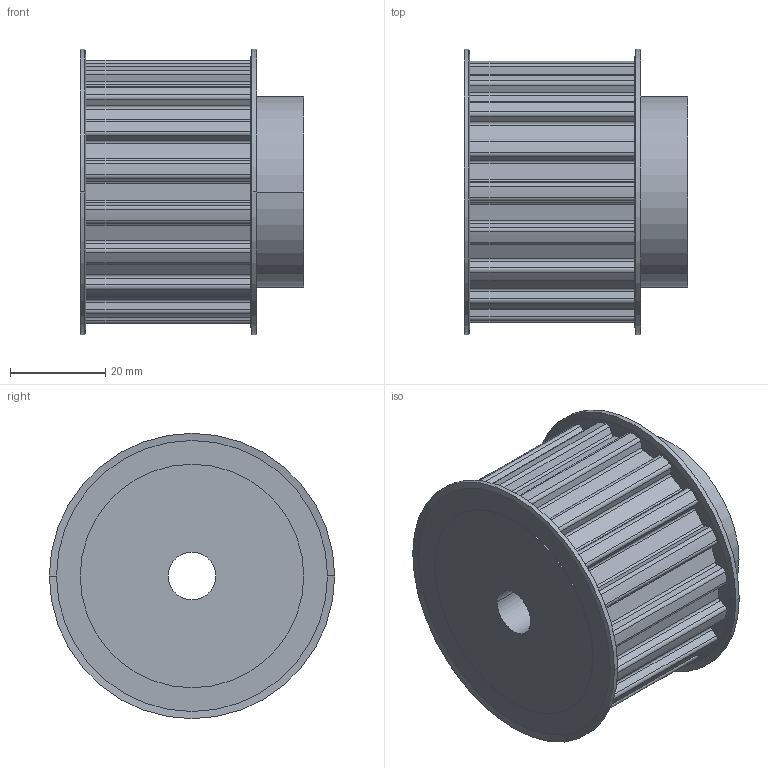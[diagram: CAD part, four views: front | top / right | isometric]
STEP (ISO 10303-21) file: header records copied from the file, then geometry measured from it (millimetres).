
FILE_DESCRIPTION( ( '' ), '1' );
FILE_NAME( 'C:/Users/Stangenbergd/Documents/CAD_Step/1/16441800.stp', '2021-10-19T08:57:07', ( '' ), ( '' ), ' ', ' ', ' ' );
FILE_SCHEMA( ( 'CONFIG_CONTROL_DESIGN' ) );
Length unit declared in the file: millimetre
Products named in the file (1): 1
Bounding box: 47.06 x 60 x 60 mm (x, y, z)
Volume: 90535 mm3; surface area: 17754.8 mm2
Topology: 1 solids, 1 shells, 171 faces, 484 edges, 320 vertices
Faces by surface type: cylinder 102, plane 61, cone 8
Entity records: 5674 total; most frequent: DIRECTION 1040, CARTESIAN_POINT 976, ORIENTED_EDGE 968, EDGE_CURVE 484, AXIS2_PLACEMENT_3D 384, VERTEX_POINT 320, LINE 272, VECTOR 272
